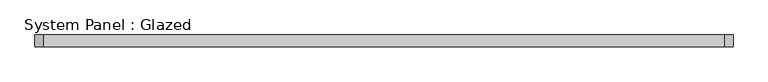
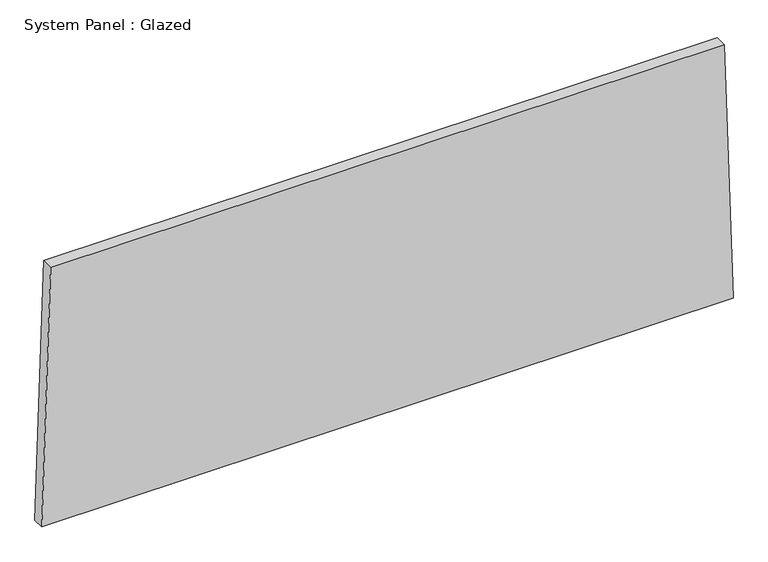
"""IFC4 building model written with IfcOpenShell, lengths in millimetres: plate geometry, System Panel : Glazed."""

from ifc_helpers import new_model, si_unit, frame, origin, place, context, project, spatial, polyline, outline, extrude, source, transform, mapped, element, save


def system_panel_glazed_7de0f96e(model_context):
    return source(origin(), model_context, "Body", "SweptSolid", [
        extrude(outline(polyline([(0.0, -743.5527374), (0.0, 743.5527374), (583.8784387, 724.5804917), (583.8784387, -724.5804917), (0.0, -743.5527374)])), frame((0.0, 19.05, 0.0), z_axis=(0.0, 1.0, 0.0), x_axis=(0.0, 0.0, 1.0)), (0.0, 0.0, 1.0), 25.4),
    ])


if __name__ == "__main__":
    model = new_model("IFC4")
    model_context = context("Model", 3, world=origin())
    ifc_project = project(units=[si_unit("LENGTHUNIT", "METRE", prefix="MILLI")], contexts=[model_context])
    site = spatial("IfcSite", under=ifc_project)
    building = spatial("IfcBuilding", under=site)
    placement = place(None, origin())
    system_panel_glazed_shape = system_panel_glazed_7de0f96e(model_context)
    element("IfcPlate", 1, ObjectType="System Panel : Glazed", at=placement, inside=building, context=model_context, shape_type="MappedRepresentation", body=[
        mapped(system_panel_glazed_shape, transform((0.0, 0.0, 0.0), x_axis=(1.0, 0.0, 0.0), y_axis=(0.0, 1.0, 0.0), z_axis=(0.0, 0.0, 1.0))),
    ])
    save(model, "model.ifc")
